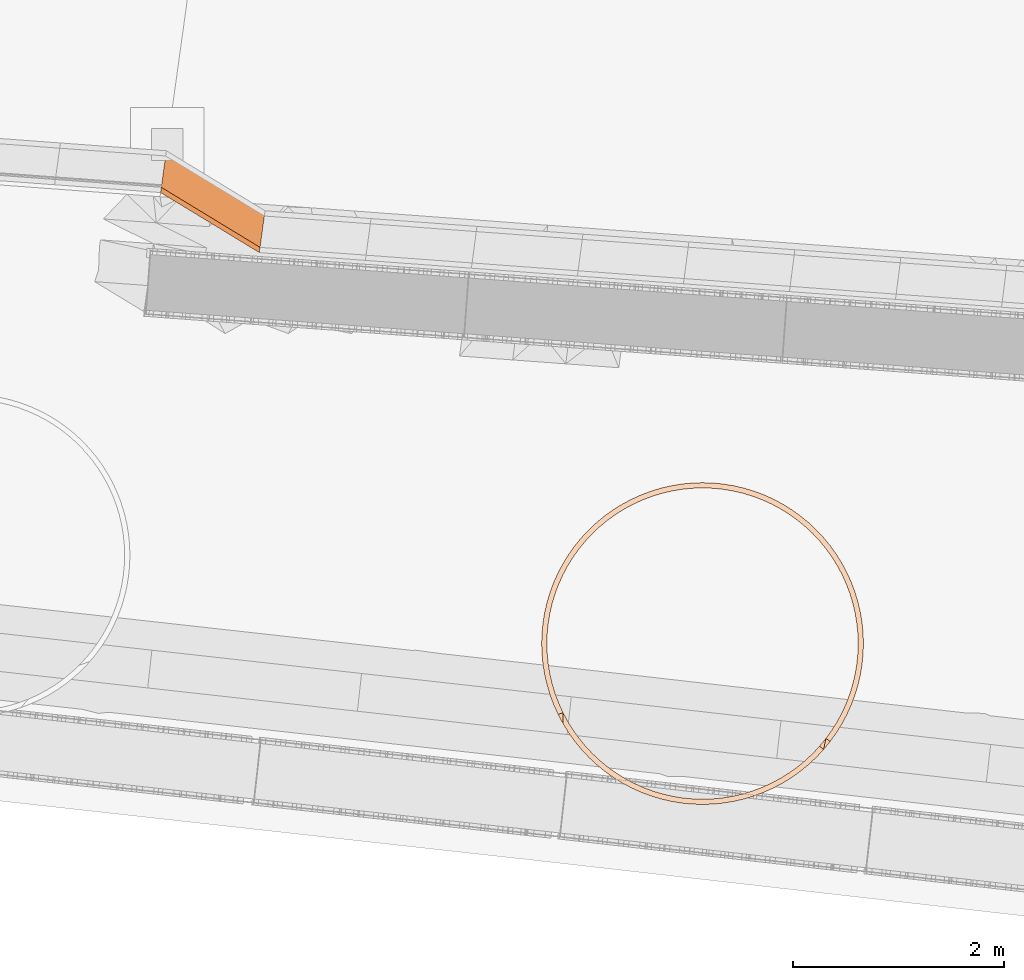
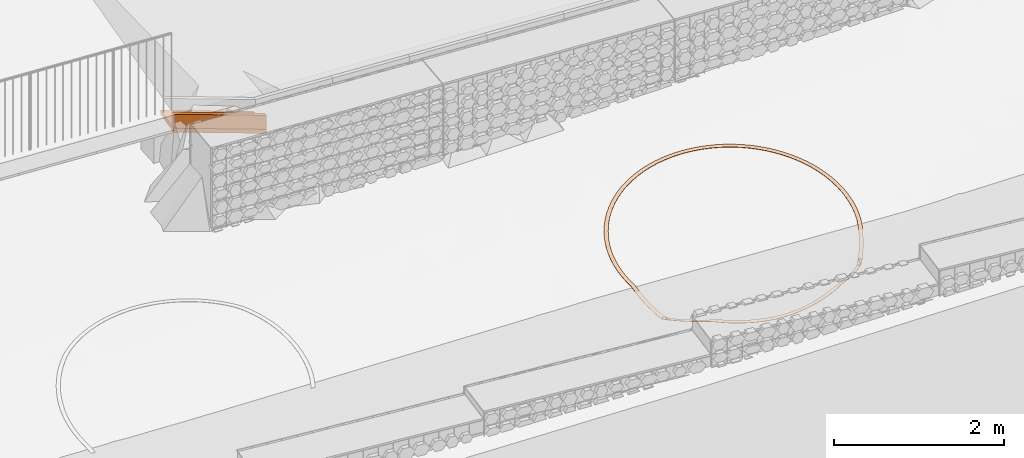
# Not in any storey, part 24 of 45: 2 proxies, 1 geographic element.
"""IFC4 model written with IfcOpenShell, lengths in metres."""

from ifc_helpers import new_model, si_unit, direction, frame, origin_with_axes, place, context, subcontext, project, spatial, polygons, material, element, save


model = new_model("IFC4")

# Units and contexts
model_context = context("Model", 3, precision=1e-05, world=origin_with_axes(), true_north=direction((0.0, 1.0)))
body_context = subcontext(model_context, "Body", "Model", "MODEL_VIEW")
ifc_project = project(units=[si_unit("VOLUMEUNIT", "CUBIC_METRE"), si_unit("LENGTHUNIT", "METRE"), si_unit("AREAUNIT", "SQUARE_METRE")], contexts=[model_context])

# Site
site_placement = place(None, origin_with_axes())
site = spatial("IfcSite", under=ifc_project, at=site_placement, Name="Lares · Rua das Mercês · artigo 4771")

# Proxies
ifc_material_1 = material(Name="Caleiras · betão", Category="concrete")
proxy_1_placement = place(site_placement, frame((0.0, 0.0, 0.0), z_axis=(0.0, 0.0, 1.0), x_axis=(1.0, -1.03767253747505e-17, 0.0)))
element("IfcBuildingElementProxy", 1, at=proxy_1_placement, inside=site, material=ifc_material_1, Name="Acesso · canal lateral", ObjectType="Acesso · canal lateral", PredefinedType="USERDEFINED", context=body_context, shape_type="Tessellation", body=[
    polygons([(55.6814997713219, 2.57749357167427, 15.227), (55.7361779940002, 2.97373881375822, 15.227), (56.6721545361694, 2.40459935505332, 15.228), (56.6174764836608, 2.00835408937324, 15.228), (55.6814997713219, 2.57749357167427, 15.287), (55.7361779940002, 2.97373881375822, 15.287), (56.6721545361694, 2.40459935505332, 15.288), (56.6174764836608, 2.00835408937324, 15.288)], [[[4, 3, 2, 1]], [[5, 6, 7, 8]], [[1, 2, 6, 5]], [[2, 3, 7, 6]], [[3, 4, 8, 7]], [[4, 1, 5, 8]]]),
])
proxy_2_placement = place(site_placement, frame((0.0, 0.0, 0.0), z_axis=(0.0, 0.0, 1.0), x_axis=(1.0, -1.03767253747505e-17, 0.0)))
element("IfcBuildingElementProxy", 2, at=proxy_2_placement, inside=site, material=ifc_material_1, Name="Acesso · canal lateral", ObjectType="Acesso · canal lateral", PredefinedType="USERDEFINED", context=body_context, shape_type="Tessellation", body=[
    polygons([(55.6814997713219, 2.57749357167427, 15.287), (55.688334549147, 2.6270242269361, 15.287), (56.6243112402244, 2.05788474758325, 15.288), (56.6174764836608, 2.00835408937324, 15.288), (55.6814997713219, 2.57749357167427, 15.487), (55.688334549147, 2.6270242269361, 15.487), (56.6243112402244, 2.05788474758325, 15.488), (56.6174764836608, 2.00835408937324, 15.488)], [[[4, 3, 2, 1]], [[5, 6, 7, 8]], [[1, 2, 6, 5]], [[2, 3, 7, 6]], [[3, 4, 8, 7]], [[4, 1, 5, 8]]]),
])

# Geographic element
ifc_material_2 = material(Name="Marcação de plantação · linha no terreno", Category="stone")
geographic_element_placement = place(site_placement, frame((0.0, 0.0, 0.0), z_axis=(0.0, 0.0, 1.0), x_axis=(1.0, -1.03767253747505e-17, 0.0)))
element("IfcGeographicElement", 3, at=geographic_element_placement, inside=site, material=ifc_material_2, Name="Marcação no solo · árvore indicativa 08", ObjectType="Marcação no solo · árvore indicativa 08", PredefinedType="USERDEFINED", context=body_context, shape_type="Tessellation", body=[
    polygons([(62.2936032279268, -1.69761370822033, 14.6360946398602), (62.2936032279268, -1.69761370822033, 14.6400946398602), (62.3436032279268, -1.69761370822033, 14.6385540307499), (62.3436032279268, -1.69761370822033, 14.6425540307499), (62.2904451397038, -1.60114409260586, 14.6490453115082), (62.2904451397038, -1.60114409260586, 14.6530453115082), (62.3403380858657, -1.59787393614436, 14.6519437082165), (62.3403380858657, -1.59787393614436, 14.6559437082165), (62.2809843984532, -1.50508757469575, 14.6616298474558), (62.2809843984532, -1.50508757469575, 14.6656298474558), (62.3305566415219, -1.49856126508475, 14.664954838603), (62.3305566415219, -1.49856126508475, 14.668954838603), (62.2652615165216, -1.40985548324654, 14.673794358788), (62.2652615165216, -1.40985548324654, 14.677794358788), (62.3143007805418, -1.40010096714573, 14.6775317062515), (62.3143007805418, -1.40010096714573, 14.6815317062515), (62.2433438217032, -1.31585561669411, 14.6854867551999), (62.2433438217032, -1.31585561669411, 14.6894867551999), (62.2916401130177, -1.30291466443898, 14.6896204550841), (62.2916401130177, -1.30291466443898, 14.6936204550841), (62.2153251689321, -1.22349049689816, 14.6966569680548), (62.2153251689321, -1.22349049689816, 14.7006569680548), (62.2626716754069, -1.207418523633, 14.7011693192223), (62.2626716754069, -1.207418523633, 14.7051693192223), (62.181325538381, -1.13315564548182, 14.7072571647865), (62.181325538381, -1.13315564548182, 14.7112571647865), (62.2275195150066, -1.11402147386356, 14.7121288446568), (62.2275195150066, -1.11402147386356, 14.7161288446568), (62.1414905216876, -1.0452378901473, 14.7172419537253), (62.1414905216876, -1.0452378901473, 14.7212419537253), (62.1863341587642, -1.02312345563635, 14.7224521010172), (62.1863341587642, -1.02312345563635, 14.7264521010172), (62.0959906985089, -0.960113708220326, 14.7265685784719), (62.0959906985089, -0.960113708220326, 14.7305685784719), (62.1392919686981, -0.935113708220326, 14.7320948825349), (62.1392919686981, -0.935113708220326, 14.7360948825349), (62.0450209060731, -0.878147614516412, 14.7351971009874), (62.0450209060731, -0.878147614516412, 14.7391971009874), (62.0865943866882, -0.850369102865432, 14.741015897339), (62.0865943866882, -0.850369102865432, 14.745015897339), (61.9887994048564, -0.799690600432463, 14.7430905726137), (61.9887994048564, -0.799690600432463, 14.7470905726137), (62.028467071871, -0.769252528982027, 14.7491769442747), (62.028467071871, -0.769252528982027, 14.7531769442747), (61.9275669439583, -0.725078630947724, 14.7502151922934), (61.9275669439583, -0.725078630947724, 14.7542151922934), (61.9651589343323, -0.692111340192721, 14.7565430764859), (61.9651589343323, -0.692111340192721, 14.7605430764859), (61.861585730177, -0.654631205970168, 14.7565404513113), (61.861585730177, -0.654631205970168, 14.7605404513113), (61.8969410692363, -0.61927586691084, 14.7630827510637), (61.8969410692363, -0.61927586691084, 14.7670827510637), (61.7911383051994, -0.588649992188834, 14.7620392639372), (61.7911383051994, -0.588649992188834, 14.7660392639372), (61.8241055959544, -0.551058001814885, 14.7687679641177), (61.8241055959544, -0.551058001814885, 14.7727679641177), (61.7165263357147, -0.527417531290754, 14.7666880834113), (61.7165263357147, -0.527417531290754, 14.7706880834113), (61.7469644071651, -0.487749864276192, 14.7735743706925), (61.7469644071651, -0.487749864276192, 14.7775743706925), (61.6380693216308, -0.471196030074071, 14.7704670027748), (61.6380693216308, -0.471196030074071, 14.7744670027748), (61.6658478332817, -0.429622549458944, 14.7774813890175), (61.6658478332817, -0.429622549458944, 14.7814813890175), (61.5561032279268, -0.420226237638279, 14.7733598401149), (61.5561032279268, -0.420226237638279, 14.7773598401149), (61.5811032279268, -0.376924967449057, 14.7804722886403), (61.5811032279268, -0.376924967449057, 14.7844722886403), (61.4709790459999, -0.37472641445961, 14.775354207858), (61.4709790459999, -0.37472641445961, 14.779354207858), (61.4930934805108, -0.329882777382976, 14.7825342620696), (61.4930934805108, -0.329882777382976, 14.7865342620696), (61.3830612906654, -0.334891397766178, 14.7764415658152), (61.3830612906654, -0.334891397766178, 14.7804415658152), (61.4021954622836, -0.288697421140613, 14.7836584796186), (61.4021954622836, -0.288697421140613, 14.7876584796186), (61.292726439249, -0.300891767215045, 14.7766172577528), (61.292726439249, -0.300891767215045, 14.7806172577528), (61.3087984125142, -0.25354526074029, 14.7838401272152), (61.3087984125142, -0.25354526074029, 14.7878401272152), (61.2003613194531, -0.27287311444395, 14.7758805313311), (61.2003613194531, -0.27287311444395, 14.7798805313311), (61.2133022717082, -0.224576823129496, 14.7830784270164), (61.2133022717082, -0.224576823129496, 14.7870784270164), (61.1063614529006, -0.250955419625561, 14.7742345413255), (61.1063614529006, -0.250955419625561, 14.7782345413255), (61.1161159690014, -0.201916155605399, 14.7813766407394), (61.1161159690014, -0.201916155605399, 14.7853766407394), (61.0111293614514, -0.235232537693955, 14.771686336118), (61.0111293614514, -0.235232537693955, 14.775686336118), (61.0176556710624, -0.185660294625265, 14.7787420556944), (61.0176556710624, -0.185660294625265, 14.7827420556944), (60.9150728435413, -0.225771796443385, 14.7682468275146), (60.9150728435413, -0.225771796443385, 14.7722468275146), (60.9183430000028, -0.175878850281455, 14.775185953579), (60.9183430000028, -0.175878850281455, 14.779185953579), (60.8186032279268, -0.222613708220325, 14.7639307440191), (60.8186032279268, -0.222613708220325, 14.7679307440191), (60.8186032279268, -0.172613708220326, 14.7707235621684), (60.8186032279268, -0.172613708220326, 14.7747235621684), (60.7221336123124, -0.225771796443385, 14.7587565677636), (60.7221336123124, -0.225771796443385, 14.7627565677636), (60.7188634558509, -0.175878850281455, 14.7653739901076), (60.7188634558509, -0.175878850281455, 14.7693739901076), (60.6260770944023, -0.235232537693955, 14.7527464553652), (60.6260770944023, -0.235232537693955, 14.7567464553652), (60.6195507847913, -0.185660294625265, 14.7591601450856), (60.6195507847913, -0.185660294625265, 14.7631601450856), (60.5308450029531, -0.250955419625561, 14.745926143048), (60.5308450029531, -0.250955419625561, 14.749926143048), (60.5210904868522, -0.201916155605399, 14.7521086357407), (60.5210904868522, -0.201916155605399, 14.7561086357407), (60.4368451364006, -0.27287311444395, 14.7383248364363), (60.4368451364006, -0.27287311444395, 14.7423248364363), (60.4239041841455, -0.224576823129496, 14.7442496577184), (60.4239041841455, -0.224576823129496, 14.7482496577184), (60.3444800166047, -0.300891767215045, 14.729975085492), (60.3444800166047, -0.300891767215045, 14.733975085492), (60.3284080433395, -0.253545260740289, 14.7356168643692), (60.3284080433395, -0.253545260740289, 14.7396168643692), (60.2541451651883, -0.334891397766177, 14.7209126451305), (60.2541451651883, -0.334891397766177, 14.7249126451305), (60.2350109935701, -0.288697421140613, 14.7262472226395), (60.2350109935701, -0.288697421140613, 14.7302472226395), (60.1662274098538, -0.37472641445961, 14.7111763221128), (60.1662274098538, -0.37472641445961, 14.7151763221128), (60.1441129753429, -0.329882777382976, 14.7161808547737), (60.1441129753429, -0.329882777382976, 14.7201808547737), (60.0811032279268, -0.420226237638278, 14.7008078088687), (60.0811032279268, -0.420226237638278, 14.7048078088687), (60.0561032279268, -0.376924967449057, 14.7054608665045), (60.0561032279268, -0.376924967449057, 14.7094608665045), (59.9991371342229, -0.471196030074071, 14.6898515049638), (59.9991371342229, -0.471196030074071, 14.6938515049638), (59.9713586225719, -0.429622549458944, 14.6941331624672), (59.9713586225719, -0.429622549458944, 14.6981331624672), (59.920680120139, -0.527417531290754, 14.6783543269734), (59.920680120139, -0.527417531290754, 14.6823543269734), (59.8902420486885, -0.487749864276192, 14.6822462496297), (59.8902420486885, -0.487749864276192, 14.6862462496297), (59.8460681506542, -0.588649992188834, 14.6663655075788), (59.8460681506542, -0.588649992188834, 14.6703655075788), (59.8131008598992, -0.551058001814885, 14.6698510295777), (59.8131008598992, -0.551058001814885, 14.6738510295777), (59.7756207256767, -0.654631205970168, 14.6539363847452), (59.7756207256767, -0.654631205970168, 14.6579363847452), (59.7402653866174, -0.61927586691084, 14.6570005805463), (59.7402653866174, -0.61927586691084, 14.6610005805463), (59.7096395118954, -0.725078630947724, 14.6411201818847), (59.7096395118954, -0.725078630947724, 14.6451201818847), (59.6720475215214, -0.69211134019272, 14.6437499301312), (59.6720475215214, -0.69211134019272, 14.6477499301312), (59.6484070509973, -0.799690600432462, 14.6279717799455), (59.6484070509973, -0.799690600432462, 14.6319717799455), (59.6087393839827, -0.769252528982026, 14.6301558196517), (59.6087393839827, -0.769252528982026, 14.6341558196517), (59.5921855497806, -0.878147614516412, 14.6145474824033), (59.5921855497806, -0.878147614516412, 14.6185474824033), (59.5506120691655, -0.850369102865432, 14.6162764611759), (59.5506120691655, -0.850369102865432, 14.6202764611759), (59.5412157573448, -0.960113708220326, 14.6009047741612), (59.5412157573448, -0.960113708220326, 14.6049047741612), (59.4979144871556, -0.935113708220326, 14.6021712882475), (59.4979144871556, -0.935113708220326, 14.6061712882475), (59.4957159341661, -1.0452378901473, 14.5871020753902), (59.4957159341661, -1.0452378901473, 14.5911020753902), (59.4508722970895, -1.02312345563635, 14.5879007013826), (59.4508722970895, -1.02312345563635, 14.5919007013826), (59.4558809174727, -1.13315564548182, 14.5731984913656), (59.4558809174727, -1.13315564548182, 14.5771984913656), (59.4096869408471, -1.11402147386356, 14.573525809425), (59.4096869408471, -1.11402147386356, 14.577525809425), (59.4218812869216, -1.22349049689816, 14.5592535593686), (59.4218812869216, -1.22349049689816, 14.5632535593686), (59.3745347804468, -1.207418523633, 14.5591081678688), (59.3745347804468, -1.207418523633, 14.5631081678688), (59.3938626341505, -1.31585561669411, 14.545326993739), (59.3938626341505, -1.31585561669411, 14.549326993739), (59.345566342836, -1.30291466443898, 14.5447095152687), (59.345566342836, -1.30291466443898, 14.5487095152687), (59.3719449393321, -1.40985548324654, 14.5314784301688), (59.3719449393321, -1.40985548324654, 14.5354784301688), (59.3229056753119, -1.40010096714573, 14.5303915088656), (59.3229056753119, -1.40010096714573, 14.5343915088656), (59.3562220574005, -1.50508757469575, 14.5177671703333), (59.3562220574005, -1.50508757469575, 14.5217671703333), (59.3066498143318, -1.49856126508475, 14.516215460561), (59.3066498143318, -1.49856126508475, 14.520215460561), (59.3467613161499, -1.60114409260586, 14.504251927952), (59.3467613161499, -1.60114409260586, 14.508251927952), (59.296868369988, -1.59787393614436, 14.5022420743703), (59.296868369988, -1.59787393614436, 14.5062420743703), (59.3436032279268, -1.69761370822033, 14.4909905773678), (59.3436032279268, -1.69761370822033, 14.4949905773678), (59.2936032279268, -1.69761370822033, 14.4885311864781), (59.2936032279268, -1.69761370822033, 14.4925311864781), (59.3467613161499, -1.79408332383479, 14.4780399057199), (59.3467613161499, -1.79408332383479, 14.4820399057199), (59.296868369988, -1.79735348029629, 14.4751415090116), (59.296868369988, -1.79735348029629, 14.4791415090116), (59.3562220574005, -1.8901398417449, 14.4654553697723), (59.3562220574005, -1.8901398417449, 14.4694553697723), (59.3066498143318, -1.8966661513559, 14.4621303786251), (59.3066498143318, -1.8966661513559, 14.4661303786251), (59.3719449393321, -1.98537193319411, 14.4223523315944), (59.3719449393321, -1.98537193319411, 14.4263523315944), (59.3229056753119, -1.99512644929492, 14.4125722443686), (59.3229056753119, -1.99512644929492, 14.4165722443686), (59.3938626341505, -2.07937179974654, 14.3742571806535), (59.3938626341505, -2.07937179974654, 14.3782571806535), (59.345566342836, -2.09231275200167, 14.362846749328), (59.345566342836, -2.09231275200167, 14.366846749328), (59.4218812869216, -2.17173691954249, 14.3276034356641), (59.4218812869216, -2.17173691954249, 14.3316034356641), (59.3745347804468, -2.18780889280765, 14.3146115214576), (59.3745347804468, -2.18780889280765, 14.3186115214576), (59.4558809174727, -2.26207177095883, 14.2826066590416), (59.4558809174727, -2.26207177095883, 14.2866066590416), (59.4096869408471, -2.28120594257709, 14.2680731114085), (59.4096869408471, -2.28120594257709, 14.2720731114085), (59.4957159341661, -2.34998952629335, 14.2394800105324), (59.4957159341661, -2.34998952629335, 14.2434800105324), (59.4508722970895, -2.3721039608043, 14.2258119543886), (59.4508722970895, -2.3721039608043, 14.2298119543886), (59.5412157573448, -2.43511370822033, 14.2426554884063), (59.5412157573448, -2.43511370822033, 14.2466554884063), (59.4979144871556, -2.46011370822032, 14.2490219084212), (59.4979144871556, -2.46011370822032, 14.2530219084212), (59.5921855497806, -2.51707980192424, 14.2643002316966), (59.5921855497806, -2.51707980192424, 14.2683002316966), (59.5506120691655, -2.54485831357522, 14.2714003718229), (59.5506120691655, -2.54485831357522, 14.2754003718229), (59.6484070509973, -2.59553681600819, 14.2850480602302), (59.6484070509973, -2.59553681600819, 14.2890480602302), (59.6087393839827, -2.62597488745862, 14.2928515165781), (59.6087393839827, -2.62597488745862, 14.2968515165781), (59.7096395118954, -2.67014878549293, 14.3048101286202), (59.7096395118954, -2.67014878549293, 14.3088101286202), (59.6720475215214, -2.70311607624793, 14.3132834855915), (59.6720475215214, -2.70311607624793, 14.3172834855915), (59.7756207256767, -2.74059621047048, 14.3235018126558), (59.7756207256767, -2.74059621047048, 14.3275018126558), (59.7402653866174, -2.77595154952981, 14.332608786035), (59.7402653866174, -2.77595154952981, 14.336608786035), (59.8460681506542, -2.80657742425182, 14.3410430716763), (59.8460681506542, -2.80657742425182, 14.3450430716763), (59.8131008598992, -2.84416941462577, 14.3507446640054), (59.8131008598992, -2.84416941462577, 14.3547446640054), (59.920680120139, -2.8678098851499, 14.3573587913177), (59.920680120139, -2.8678098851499, 14.3613587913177), (59.8902420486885, -2.90747755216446, 14.3535108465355), (59.8902420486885, -2.90747755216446, 14.3575108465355), (59.9991371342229, -2.92403138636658, 14.3566182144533), (59.9991371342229, -2.92403138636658, 14.3606182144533), (59.9713586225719, -2.96560486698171, 14.3496038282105), (59.9713586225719, -2.96560486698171, 14.3536038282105), (60.0811032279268, -2.97500117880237, 14.3537253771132), (60.0811032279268, -2.97500117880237, 14.3577253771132), (60.0561032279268, -3.01830244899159, 14.3466129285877), (60.0561032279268, -3.01830244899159, 14.3506129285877), (60.1662274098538, -3.02050100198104, 14.3517310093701), (60.1662274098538, -3.02050100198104, 14.3557310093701), (60.1441129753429, -3.06534463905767, 14.3445509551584), (60.1441129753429, -3.06534463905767, 14.3485509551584), (60.2541451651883, -3.06033601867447, 14.3506436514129), (60.2541451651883, -3.06033601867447, 14.3546436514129), (60.2350109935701, -3.10652999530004, 14.3434267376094), (60.2350109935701, -3.10652999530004, 14.3474267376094), (60.3444800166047, -3.09433564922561, 14.3504679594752), (60.3444800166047, -3.09433564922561, 14.3544679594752), (60.3284080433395, -3.14168215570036, 14.3432450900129), (60.3284080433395, -3.14168215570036, 14.3472450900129), (60.4368451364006, -3.1223543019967, 14.351204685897), (60.4368451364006, -3.1223543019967, 14.355204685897), (60.4239041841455, -3.17065059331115, 14.3440067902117), (60.4239041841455, -3.17065059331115, 14.3480067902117), (60.5308450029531, -3.14427199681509, 14.3528506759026), (60.5308450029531, -3.14427199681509, 14.3568506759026), (60.5210904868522, -3.19331126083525, 14.3457085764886), (60.5210904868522, -3.19331126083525, 14.3497085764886), (60.6260770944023, -3.1599948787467, 14.35539888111), (60.6260770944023, -3.1599948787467, 14.35939888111), (60.6195507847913, -3.20956712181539, 14.348943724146), (60.6195507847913, -3.20956712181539, 14.352943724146), (60.7221336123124, -3.16945561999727, 14.3596132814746), (60.7221336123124, -3.16945561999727, 14.3636132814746), (60.7188634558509, -3.2193485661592, 14.356452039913), (60.7188634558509, -3.2193485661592, 14.360452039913), (60.8186032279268, -3.17261370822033, 14.367274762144), (60.8186032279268, -3.17261370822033, 14.371274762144), (60.8186032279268, -3.22261370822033, 14.3643732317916), (60.8186032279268, -3.22261370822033, 14.3683732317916), (60.9150728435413, -3.16945561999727, 14.3753027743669), (60.9150728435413, -3.16945561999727, 14.3793027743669), (60.9183430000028, -3.2193485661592, 14.372673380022), (60.9183430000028, -3.2193485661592, 14.376673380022), (61.0111293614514, -3.1599948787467, 14.3836629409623), (61.0111293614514, -3.1599948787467, 14.3876629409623), (61.0176556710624, -3.20956712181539, 14.3813169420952), (61.0176556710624, -3.20956712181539, 14.3853169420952), (61.1063614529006, -3.14427199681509, 14.3923194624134), (61.1063614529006, -3.14427199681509, 14.3963194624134), (61.1161159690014, -3.19331126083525, 14.3902669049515), (61.1161159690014, -3.19331126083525, 14.3942669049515), (61.2003613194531, -3.1223543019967, 14.4012352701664), (61.2003613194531, -3.1223543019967, 14.4052352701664), (61.2133022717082, -3.17065059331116, 14.3994849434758), (61.2133022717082, -3.17065059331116, 14.4034849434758), (61.292726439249, -3.09433564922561, 14.4103721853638), (61.292726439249, -3.09433564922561, 14.4143721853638), (61.3087984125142, -3.14168215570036, 14.4089315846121), (61.3087984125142, -3.14168215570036, 14.4129315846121), (61.3830612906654, -3.06033601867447, 14.4196910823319), (61.3830612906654, -3.06033601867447, 14.4236910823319), (61.4021954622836, -3.10652999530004, 14.4185663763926), (61.4021954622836, -3.10652999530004, 14.4225663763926), (61.4709790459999, -3.02050100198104, 14.4167426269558), (61.4709790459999, -3.02050100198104, 14.4207426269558), (61.4930934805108, -3.06534463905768, 14.42834806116), (61.4930934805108, -3.06534463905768, 14.43234806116), (61.5561032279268, -2.97500117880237, 14.4043750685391), (61.5561032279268, -2.97500117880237, 14.4083750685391), (61.5811032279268, -3.01830244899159, 14.419975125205), (61.5811032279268, -3.01830244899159, 14.423975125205), (61.6380693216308, -2.92403138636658, 14.390036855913), (61.6380693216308, -2.92403138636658, 14.394036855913), (61.6658478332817, -2.96560486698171, 14.405150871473), (61.6658478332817, -2.96560486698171, 14.409150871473), (61.7165263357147, -2.8678098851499, 14.3737893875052), (61.7165263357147, -2.8678098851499, 14.3777893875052), (61.7469644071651, -2.90747755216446, 14.3883526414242), (61.7469644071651, -2.90747755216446, 14.3923526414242), (61.7911383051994, -2.80657742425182, 14.3557022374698), (61.7911383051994, -2.80657742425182, 14.3597022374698), (61.8241055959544, -2.84416941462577, 14.3696523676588), (61.8241055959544, -2.84416941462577, 14.3736523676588), (61.861585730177, -2.74059621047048, 14.33585285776), (61.861585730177, -2.74059621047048, 14.33985285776), (61.8969410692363, -2.77595154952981, 14.3491301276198), (61.8969410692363, -2.77595154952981, 14.3531301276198), (61.9275669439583, -2.67014878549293, 14.314326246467), (61.9275669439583, -2.67014878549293, 14.318326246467), (61.9651589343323, -2.70311607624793, 14.3268738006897), (61.9651589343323, -2.70311607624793, 14.3308738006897), (61.9887994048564, -2.59553681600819, 14.3438201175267), (61.9887994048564, -2.59553681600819, 14.3478201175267), (62.028467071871, -2.62597488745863, 14.3317825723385), (62.028467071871, -2.62597488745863, 14.3357825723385), (62.0450209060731, -2.51707980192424, 14.3909669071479), (62.0450209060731, -2.51707980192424, 14.3949669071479), (62.0865943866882, -2.54485831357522, 14.3800763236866), (62.0865943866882, -2.54485831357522, 14.3840763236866), (62.0959906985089, -2.43511370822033, 14.4394894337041), (62.0959906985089, -2.43511370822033, 14.4434894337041), (62.1392919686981, -2.46011370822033, 14.4302436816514), (62.1392919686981, -2.46011370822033, 14.4342436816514), (62.1414905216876, -2.34998952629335, 14.4891799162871), (62.1414905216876, -2.34998952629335, 14.4931799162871), (62.1863341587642, -2.3721039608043, 14.4816185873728), (62.1863341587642, -2.3721039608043, 14.4856185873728), (62.181325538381, -2.26207177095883, 14.5398255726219), (62.181325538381, -2.26207177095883, 14.5438255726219), (62.2275195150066, -2.28120594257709, 14.5339810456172), (62.2275195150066, -2.28120594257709, 14.5379810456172), (62.2153251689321, -2.17173691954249, 14.5678316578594), (62.2153251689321, -2.17173691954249, 14.5718316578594), (62.2626716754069, -2.18780889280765, 14.5679770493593), (62.2626716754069, -2.18780889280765, 14.5719770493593), (62.2433438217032, -2.07937179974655, 14.581758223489), (62.2433438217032, -2.07937179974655, 14.585758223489), (62.2916401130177, -2.09231275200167, 14.5823757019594), (62.2916401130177, -2.09231275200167, 14.5863757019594), (62.2652615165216, -1.98537193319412, 14.5956067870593), (62.2652615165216, -1.98537193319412, 14.5996067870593), (62.3143007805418, -1.99512644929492, 14.5966937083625), (62.3143007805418, -1.99512644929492, 14.6006937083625), (62.2809843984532, -1.8901398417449, 14.6093180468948), (62.2809843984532, -1.8901398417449, 14.6133180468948), (62.3305566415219, -1.8966661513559, 14.610869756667), (62.3305566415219, -1.8966661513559, 14.614869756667), (62.2904451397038, -1.79408332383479, 14.622833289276), (62.2904451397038, -1.79408332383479, 14.626833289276), (62.3403380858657, -1.79735348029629, 14.6248431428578), (62.3403380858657, -1.79735348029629, 14.6288431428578)], [[[5, 7, 3, 1]], [[4, 8, 6, 2]], [[2, 6, 5, 1]], [[7, 8, 4, 3]], [[9, 11, 7, 5]], [[8, 12, 10, 6]], [[6, 10, 9, 5]], [[11, 12, 8, 7]], [[13, 15, 11, 9]], [[12, 16, 14, 10]], [[10, 14, 13, 9]], [[15, 16, 12, 11]], [[17, 19, 15, 13]], [[16, 20, 18, 14]], [[14, 18, 17, 13]], [[19, 20, 16, 15]], [[21, 23, 19, 17]], [[20, 24, 22, 18]], [[18, 22, 21, 17]], [[23, 24, 20, 19]], [[25, 27, 23, 21]], [[24, 28, 26, 22]], [[22, 26, 25, 21]], [[27, 28, 24, 23]], [[29, 31, 27, 25]], [[28, 32, 30, 26]], [[26, 30, 29, 25]], [[31, 32, 28, 27]], [[33, 35, 31, 29]], [[32, 36, 34, 30]], [[30, 34, 33, 29]], [[35, 36, 32, 31]], [[37, 39, 35, 33]], [[36, 40, 38, 34]], [[34, 38, 37, 33]], [[39, 40, 36, 35]], [[41, 43, 39, 37]], [[40, 44, 42, 38]], [[38, 42, 41, 37]], [[43, 44, 40, 39]], [[45, 47, 43, 41]], [[44, 48, 46, 42]], [[42, 46, 45, 41]], [[47, 48, 44, 43]], [[49, 51, 47, 45]], [[48, 52, 50, 46]], [[46, 50, 49, 45]], [[51, 52, 48, 47]], [[53, 55, 51, 49]], [[52, 56, 54, 50]], [[50, 54, 53, 49]], [[55, 56, 52, 51]], [[57, 59, 55, 53]], [[56, 60, 58, 54]], [[54, 58, 57, 53]], [[59, 60, 56, 55]], [[61, 63, 59, 57]], [[60, 64, 62, 58]], [[58, 62, 61, 57]], [[63, 64, 60, 59]], [[65, 67, 63, 61]], [[64, 68, 66, 62]], [[62, 66, 65, 61]], [[67, 68, 64, 63]], [[69, 71, 67, 65]], [[68, 72, 70, 66]], [[66, 70, 69, 65]], [[71, 72, 68, 67]], [[73, 75, 71, 69]], [[72, 76, 74, 70]], [[70, 74, 73, 69]], [[75, 76, 72, 71]], [[77, 79, 75, 73]], [[76, 80, 78, 74]], [[74, 78, 77, 73]], [[79, 80, 76, 75]], [[81, 83, 79, 77]], [[80, 84, 82, 78]], [[78, 82, 81, 77]], [[83, 84, 80, 79]], [[85, 87, 83, 81]], [[84, 88, 86, 82]], [[82, 86, 85, 81]], [[87, 88, 84, 83]], [[89, 91, 87, 85]], [[88, 92, 90, 86]], [[86, 90, 89, 85]], [[91, 92, 88, 87]], [[93, 95, 91, 89]], [[92, 96, 94, 90]], [[90, 94, 93, 89]], [[95, 96, 92, 91]], [[97, 99, 95, 93]], [[96, 100, 98, 94]], [[94, 98, 97, 93]], [[99, 100, 96, 95]], [[101, 103, 99, 97]], [[100, 104, 102, 98]], [[98, 102, 101, 97]], [[103, 104, 100, 99]], [[105, 107, 103, 101]], [[104, 108, 106, 102]], [[102, 106, 105, 101]], [[107, 108, 104, 103]], [[109, 111, 107, 105]], [[108, 112, 110, 106]], [[106, 110, 109, 105]], [[111, 112, 108, 107]], [[113, 115, 111, 109]], [[112, 116, 114, 110]], [[110, 114, 113, 109]], [[115, 116, 112, 111]], [[117, 119, 115, 113]], [[116, 120, 118, 114]], [[114, 118, 117, 113]], [[119, 120, 116, 115]], [[121, 123, 119, 117]], [[120, 124, 122, 118]], [[118, 122, 121, 117]], [[123, 124, 120, 119]], [[125, 127, 123, 121]], [[124, 128, 126, 122]], [[122, 126, 125, 121]], [[127, 128, 124, 123]], [[129, 131, 127, 125]], [[128, 132, 130, 126]], [[126, 130, 129, 125]], [[131, 132, 128, 127]], [[133, 135, 131, 129]], [[132, 136, 134, 130]], [[130, 134, 133, 129]], [[135, 136, 132, 131]], [[137, 139, 135, 133]], [[136, 140, 138, 134]], [[134, 138, 137, 133]], [[139, 140, 136, 135]], [[141, 143, 139, 137]], [[140, 144, 142, 138]], [[138, 142, 141, 137]], [[143, 144, 140, 139]], [[145, 147, 143, 141]], [[144, 148, 146, 142]], [[142, 146, 145, 141]], [[147, 148, 144, 143]], [[149, 151, 147, 145]], [[148, 152, 150, 146]], [[146, 150, 149, 145]], [[151, 152, 148, 147]], [[153, 155, 151, 149]], [[152, 156, 154, 150]], [[150, 154, 153, 149]], [[155, 156, 152, 151]], [[157, 159, 155, 153]], [[156, 160, 158, 154]], [[154, 158, 157, 153]], [[159, 160, 156, 155]], [[161, 163, 159, 157]], [[160, 164, 162, 158]], [[158, 162, 161, 157]], [[163, 164, 160, 159]], [[165, 167, 163, 161]], [[164, 168, 166, 162]], [[162, 166, 165, 161]], [[167, 168, 164, 163]], [[169, 171, 167, 165]], [[168, 172, 170, 166]], [[166, 170, 169, 165]], [[171, 172, 168, 167]], [[173, 175, 171, 169]], [[172, 176, 174, 170]], [[170, 174, 173, 169]], [[175, 176, 172, 171]], [[177, 179, 175, 173]], [[176, 180, 178, 174]], [[174, 178, 177, 173]], [[179, 180, 176, 175]], [[181, 183, 179, 177]], [[180, 184, 182, 178]], [[178, 182, 181, 177]], [[183, 184, 180, 179]], [[185, 187, 183, 181]], [[184, 188, 186, 182]], [[182, 186, 185, 181]], [[187, 188, 184, 183]], [[189, 191, 187, 185]], [[188, 192, 190, 186]], [[186, 190, 189, 185]], [[191, 192, 188, 187]], [[193, 195, 191, 189]], [[192, 196, 194, 190]], [[190, 194, 193, 189]], [[195, 196, 192, 191]], [[197, 199, 195, 193]], [[196, 200, 198, 194]], [[194, 198, 197, 193]], [[199, 200, 196, 195]], [[201, 203, 199, 197]], [[200, 204, 202, 198]], [[198, 202, 201, 197]], [[203, 204, 200, 199]], [[205, 207, 203, 201]], [[204, 208, 206, 202]], [[202, 206, 205, 201]], [[207, 208, 204, 203]], [[209, 211, 207, 205]], [[208, 212, 210, 206]], [[206, 210, 209, 205]], [[211, 212, 208, 207]], [[213, 215, 211, 209]], [[212, 216, 214, 210]], [[210, 214, 213, 209]], [[215, 216, 212, 211]], [[217, 219, 215, 213]], [[216, 220, 218, 214]], [[214, 218, 217, 213]], [[219, 220, 216, 215]], [[221, 223, 219, 217]], [[220, 224, 222, 218]], [[218, 222, 221, 217]], [[223, 224, 220, 219]], [[225, 227, 223, 221]], [[224, 228, 226, 222]], [[222, 226, 225, 221]], [[227, 228, 224, 223]], [[229, 231, 227, 225]], [[228, 232, 230, 226]], [[226, 230, 229, 225]], [[231, 232, 228, 227]], [[233, 235, 231, 229]], [[232, 236, 234, 230]], [[230, 234, 233, 229]], [[235, 236, 232, 231]], [[237, 239, 235, 233]], [[236, 240, 238, 234]], [[234, 238, 237, 233]], [[239, 240, 236, 235]], [[241, 243, 239, 237]], [[240, 244, 242, 238]], [[238, 242, 241, 237]], [[243, 244, 240, 239]], [[245, 247, 243, 241]], [[244, 248, 246, 242]], [[242, 246, 245, 241]], [[247, 248, 244, 243]], [[249, 251, 247, 245]], [[248, 252, 250, 246]], [[246, 250, 249, 245]], [[251, 252, 248, 247]], [[253, 255, 251, 249]], [[252, 256, 254, 250]], [[250, 254, 253, 249]], [[255, 256, 252, 251]], [[257, 259, 255, 253]], [[256, 260, 258, 254]], [[254, 258, 257, 253]], [[259, 260, 256, 255]], [[261, 263, 259, 257]], [[260, 264, 262, 258]], [[258, 262, 261, 257]], [[263, 264, 260, 259]], [[265, 267, 263, 261]], [[264, 268, 266, 262]], [[262, 266, 265, 261]], [[267, 268, 264, 263]], [[269, 271, 267, 265]], [[268, 272, 270, 266]], [[266, 270, 269, 265]], [[271, 272, 268, 267]], [[273, 275, 271, 269]], [[272, 276, 274, 270]], [[270, 274, 273, 269]], [[275, 276, 272, 271]], [[277, 279, 275, 273]], [[276, 280, 278, 274]], [[274, 278, 277, 273]], [[279, 280, 276, 275]], [[281, 283, 279, 277]], [[280, 284, 282, 278]], [[278, 282, 281, 277]], [[283, 284, 280, 279]], [[285, 287, 283, 281]], [[284, 288, 286, 282]], [[282, 286, 285, 281]], [[287, 288, 284, 283]], [[289, 291, 287, 285]], [[288, 292, 290, 286]], [[286, 290, 289, 285]], [[291, 292, 288, 287]], [[293, 295, 291, 289]], [[292, 296, 294, 290]], [[290, 294, 293, 289]], [[295, 296, 292, 291]], [[297, 299, 295, 293]], [[296, 300, 298, 294]], [[294, 298, 297, 293]], [[299, 300, 296, 295]], [[301, 303, 299, 297]], [[300, 304, 302, 298]], [[298, 302, 301, 297]], [[303, 304, 300, 299]], [[305, 307, 303, 301]], [[304, 308, 306, 302]], [[302, 306, 305, 301]], [[307, 308, 304, 303]], [[309, 311, 307, 305]], [[308, 312, 310, 306]], [[306, 310, 309, 305]], [[311, 312, 308, 307]], [[313, 315, 311, 309]], [[312, 316, 314, 310]], [[310, 314, 313, 309]], [[315, 316, 312, 311]], [[317, 319, 315, 313]], [[316, 320, 318, 314]], [[314, 318, 317, 313]], [[319, 320, 316, 315]], [[321, 323, 319, 317]], [[320, 324, 322, 318]], [[318, 322, 321, 317]], [[323, 324, 320, 319]], [[325, 327, 323, 321]], [[324, 328, 326, 322]], [[322, 326, 325, 321]], [[327, 328, 324, 323]], [[329, 331, 327, 325]], [[328, 332, 330, 326]], [[326, 330, 329, 325]], [[331, 332, 328, 327]], [[333, 335, 331, 329]], [[332, 336, 334, 330]], [[330, 334, 333, 329]], [[335, 336, 332, 331]], [[337, 339, 335, 333]], [[336, 340, 338, 334]], [[334, 338, 337, 333]], [[339, 340, 336, 335]], [[341, 343, 339, 337]], [[340, 344, 342, 338]], [[338, 342, 341, 337]], [[343, 344, 340, 339]], [[345, 347, 343, 341]], [[344, 348, 346, 342]], [[342, 346, 345, 341]], [[347, 348, 344, 343]], [[349, 351, 347, 345]], [[348, 352, 350, 346]], [[346, 350, 349, 345]], [[351, 352, 348, 347]], [[353, 355, 351, 349]], [[352, 356, 354, 350]], [[350, 354, 353, 349]], [[355, 356, 352, 351]], [[357, 359, 355, 353]], [[356, 360, 358, 354]], [[354, 358, 357, 353]], [[359, 360, 356, 355]], [[361, 363, 359, 357]], [[360, 364, 362, 358]], [[358, 362, 361, 357]], [[363, 364, 360, 359]], [[365, 367, 363, 361]], [[364, 368, 366, 362]], [[362, 366, 365, 361]], [[367, 368, 364, 363]], [[369, 371, 367, 365]], [[368, 372, 370, 366]], [[366, 370, 369, 365]], [[371, 372, 368, 367]], [[373, 375, 371, 369]], [[372, 376, 374, 370]], [[370, 374, 373, 369]], [[375, 376, 372, 371]], [[377, 379, 375, 373]], [[376, 380, 378, 374]], [[374, 378, 377, 373]], [[379, 380, 376, 375]], [[381, 383, 379, 377]], [[380, 384, 382, 378]], [[378, 382, 381, 377]], [[383, 384, 380, 379]], [[1, 3, 383, 381]], [[384, 4, 2, 382]], [[382, 2, 1, 381]], [[3, 4, 384, 383]]]),
])

save(model, "model.ifc")
